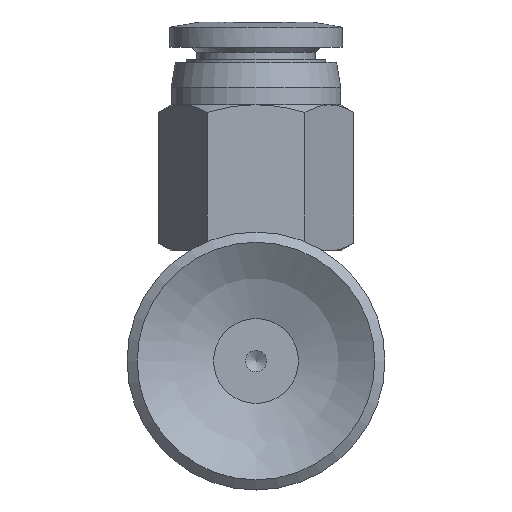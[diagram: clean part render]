
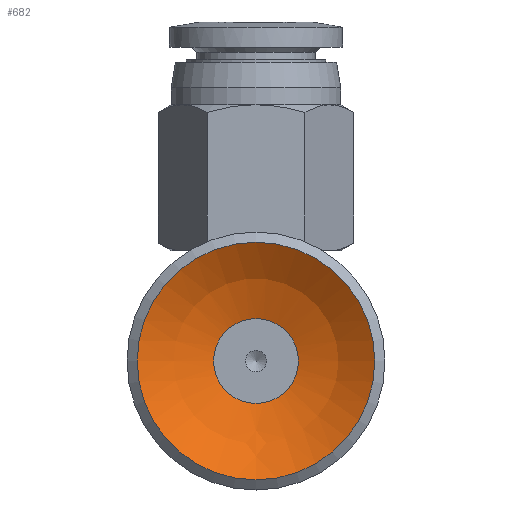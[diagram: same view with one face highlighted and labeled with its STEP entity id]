
A CAD part, front view. The second image highlights one B-rep face of the part: STEP entity #682.
In plain terms, the highlighted spherical face has radius 11.5 mm.
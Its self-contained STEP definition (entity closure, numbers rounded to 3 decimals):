
#682=ADVANCED_FACE('',(#1198,#1199),#1200,.F.);
#1198=FACE_OUTER_BOUND('',#1840,.T.);
#1199=FACE_OUTER_BOUND('',#1841,.T.);
#1200=SPHERICAL_SURFACE('',#1842,11.5);
#1840=EDGE_LOOP('',(#3492));
#1841=EDGE_LOOP('',(#3493));
#1842=AXIS2_PLACEMENT_3D('',#3494,#3495,#3496);
#3492=ORIENTED_EDGE('',*,*,#4458,.T.);
#3493=ORIENTED_EDGE('',*,*,#4398,.F.);
#3494=CARTESIAN_POINT('',(0.001,9.494,-22.735));
#3495=DIRECTION('',(0.0,0.,-1.0));
#3496=DIRECTION('',(1.0,0.0,0.0));
#4398=EDGE_CURVE('',#5151,#5151,#5152,.T.);
#4458=EDGE_CURVE('',#5246,#5246,#5247,.T.);
#5151=VERTEX_POINT('',#7050);
#5152=CIRCLE('',#7051,2.5);
#5246=VERTEX_POINT('',#7145);
#5247=CIRCLE('',#7146,7.0);
#7050=CARTESIAN_POINT('',(0.001,11.994,-11.51));
#7051=AXIS2_PLACEMENT_3D('',#8180,#8181,#8182);
#7145=CARTESIAN_POINT('',(0.001,16.494,-13.611));
#7146=AXIS2_PLACEMENT_3D('',#8360,#8361,#8362);
#8180=CARTESIAN_POINT('',(0.001,9.494,-11.51));
#8181=DIRECTION('',(0.0,0.,-1.0));
#8182=DIRECTION('',(0.0,1.0,0.));
#8360=CARTESIAN_POINT('',(0.001,9.494,-13.611));
#8361=DIRECTION('',(0.0,0.,-1.0));
#8362=DIRECTION('',(0.0,1.0,0.));
